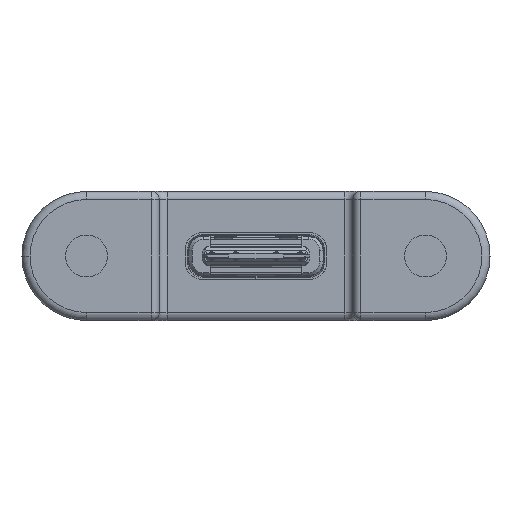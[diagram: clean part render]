
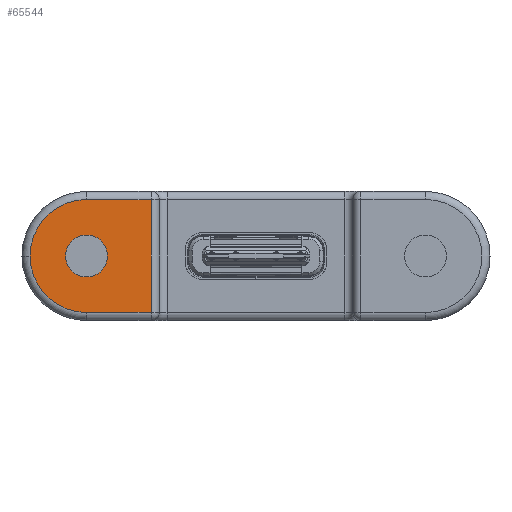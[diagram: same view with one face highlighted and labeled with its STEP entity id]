
A CAD part, front view. The second image highlights one B-rep face of the part: STEP entity #65544.
In plain terms, the highlighted planar face has unit normal (0, -1, 0).
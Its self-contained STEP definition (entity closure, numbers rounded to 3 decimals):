
#2595 = CARTESIAN_POINT ( 'NONE',  ( -10.5, -119., 0. ) ) ;
#3120 = VERTEX_POINT ( 'NONE', #55046 ) ;
#3710 = PLANE ( 'NONE',  #80719 ) ;
#5325 = DIRECTION ( 'NONE',  ( 1., 0., 0. ) ) ;
#6710 = CARTESIAN_POINT ( 'NONE',  ( -6., -119., -3.5 ) ) ;
#7078 = CARTESIAN_POINT ( 'NONE',  ( -14., -119., 0. ) ) ;
#9971 = CIRCLE ( 'NONE', #12840, 3.5 ) ;
#9991 = ORIENTED_EDGE ( 'NONE', *, *, #79508, .T. ) ;
#10019 = CARTESIAN_POINT ( 'NONE',  ( -6.5, -119., -3.5 ) ) ;
#10383 = VERTEX_POINT ( 'NONE', #87157 ) ;
#10420 = VECTOR ( 'NONE', #83353, 1000. ) ;
#11132 = DIRECTION ( 'NONE',  ( -1., 0., 0. ) ) ;
#12100 = VERTEX_POINT ( 'NONE', #7078 ) ;
#12840 = AXIS2_PLACEMENT_3D ( 'NONE', #70086, #69192, #35233 ) ;
#14325 = CIRCLE ( 'NONE', #64271, 3.5 ) ;
#18249 = DIRECTION ( 'NONE',  ( 0., -1., 0. ) ) ;
#19645 = DIRECTION ( 'NONE',  ( 1., 0., 0. ) ) ;
#20059 = VECTOR ( 'NONE', #71768, 1000. ) ;
#21695 = EDGE_CURVE ( 'NONE', #10383, #32045, #79797, .T. ) ;
#23323 = DIRECTION ( 'NONE',  ( -1., 0., 0. ) ) ;
#27957 = EDGE_CURVE ( 'NONE', #57294, #84313, #67895, .T. ) ;
#28144 = EDGE_CURVE ( 'NONE', #12100, #57294, #9971, .T. ) ;
#29137 = FACE_BOUND ( 'NONE', #53400, .T. ) ;
#29258 = CARTESIAN_POINT ( 'NONE',  ( -6.5, -119., 4. ) ) ;
#29278 = CARTESIAN_POINT ( 'NONE',  ( -11.8, -119., 0. ) ) ;
#32045 = VERTEX_POINT ( 'NONE', #58368 ) ;
#33316 = EDGE_CURVE ( 'NONE', #84313, #10383, #77074, .T. ) ;
#33720 = ORIENTED_EDGE ( 'NONE', *, *, #28144, .T. ) ;
#35174 = DIRECTION ( 'NONE',  ( 1., 0., 0. ) ) ;
#35233 = DIRECTION ( 'NONE',  ( -1., 0., 0. ) ) ;
#37617 = ORIENTED_EDGE ( 'NONE', *, *, #27957, .T. ) ;
#44297 = ORIENTED_EDGE ( 'NONE', *, *, #71878, .F. ) ;
#45269 = ORIENTED_EDGE ( 'NONE', *, *, #33316, .T. ) ;
#45376 = CARTESIAN_POINT ( 'NONE',  ( -14.5, -119., 3.5 ) ) ;
#45922 = CARTESIAN_POINT ( 'NONE',  ( -10.5, -119., 0. ) ) ;
#48603 = ORIENTED_EDGE ( 'NONE', *, *, #21695, .T. ) ;
#53400 = EDGE_LOOP ( 'NONE', ( #81566, #44297 ) ) ;
#54969 = EDGE_LOOP ( 'NONE', ( #45269, #48603, #9991, #33720, #37617 ) ) ;
#55046 = CARTESIAN_POINT ( 'NONE',  ( -9.2, -119., 0. ) ) ;
#56476 = CARTESIAN_POINT ( 'NONE',  ( -10.5, -119., -3.5 ) ) ;
#57177 = EDGE_CURVE ( 'NONE', #3120, #77939, #87011, .T. ) ;
#57294 = VERTEX_POINT ( 'NONE', #56476 ) ;
#57473 = DIRECTION ( 'NONE',  ( 0., -1., 0. ) ) ;
#57708 = FACE_OUTER_BOUND ( 'NONE', #54969, .T. ) ;
#58368 = CARTESIAN_POINT ( 'NONE',  ( -10.5, -119., 3.5 ) ) ;
#64271 = AXIS2_PLACEMENT_3D ( 'NONE', #72767, #18249, #11132 ) ;
#64885 = DIRECTION ( 'NONE',  ( 0., 1., 0. ) ) ;
#65544 = ADVANCED_FACE ( 'NONE', ( #29137, #57708 ), #3710, .F. ) ;
#67895 = LINE ( 'NONE', #6710, #71316 ) ;
#69192 = DIRECTION ( 'NONE',  ( 0., -1., 0. ) ) ;
#70086 = CARTESIAN_POINT ( 'NONE',  ( -10.5, -119., 0. ) ) ;
#70259 = CARTESIAN_POINT ( 'NONE',  ( -14.5, -119., 4. ) ) ;
#70684 = AXIS2_PLACEMENT_3D ( 'NONE', #2595, #57473, #35174 ) ;
#71315 = AXIS2_PLACEMENT_3D ( 'NONE', #45922, #87058, #5325 ) ;
#71316 = VECTOR ( 'NONE', #19645, 1000. ) ;
#71768 = DIRECTION ( 'NONE',  ( -1., 0., 0. ) ) ;
#71878 = EDGE_CURVE ( 'NONE', #77939, #3120, #77829, .T. ) ;
#72767 = CARTESIAN_POINT ( 'NONE',  ( -10.5, -119., 0. ) ) ;
#77074 = LINE ( 'NONE', #29258, #10420 ) ;
#77829 = CIRCLE ( 'NONE', #70684, 1.3 ) ;
#77939 = VERTEX_POINT ( 'NONE', #29278 ) ;
#79508 = EDGE_CURVE ( 'NONE', #32045, #12100, #14325, .T. ) ;
#79797 = LINE ( 'NONE', #45376, #20059 ) ;
#80719 = AXIS2_PLACEMENT_3D ( 'NONE', #70259, #64885, #23323 ) ;
#81566 = ORIENTED_EDGE ( 'NONE', *, *, #57177, .F. ) ;
#83353 = DIRECTION ( 'NONE',  ( 0., 0., 1. ) ) ;
#84313 = VERTEX_POINT ( 'NONE', #10019 ) ;
#87011 = CIRCLE ( 'NONE', #71315, 1.3 ) ;
#87058 = DIRECTION ( 'NONE',  ( 0., -1., 0. ) ) ;
#87157 = CARTESIAN_POINT ( 'NONE',  ( -6.5, -119., 3.5 ) ) ;
